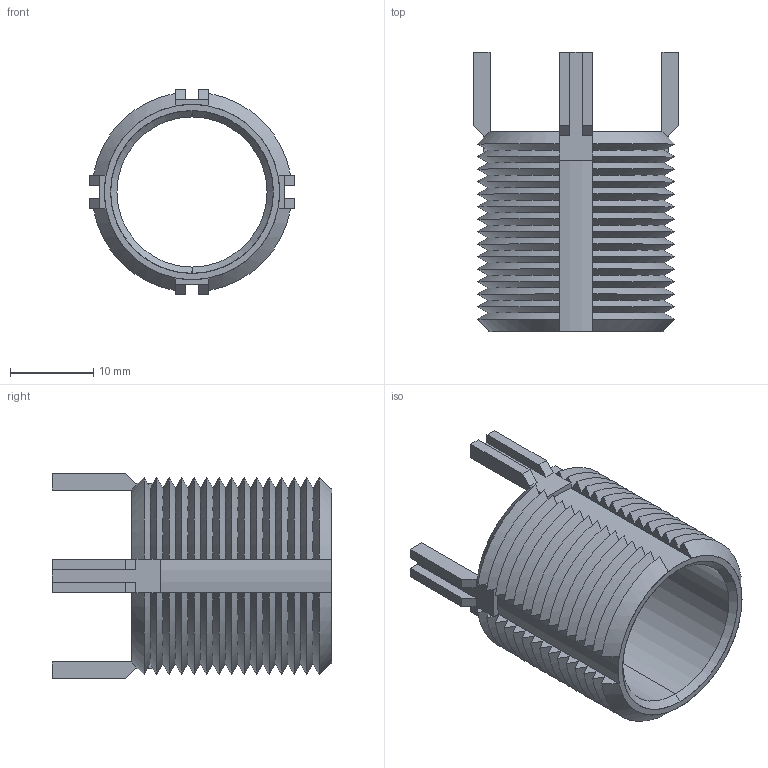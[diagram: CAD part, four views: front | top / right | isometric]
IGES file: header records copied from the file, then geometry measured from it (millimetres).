
Start section: SolidWorks IGES file using analytic representation for surfaces
Global section: file name: C:\Users\IanO\Desktop\PDF data sheets and models from M drive\Holding folder\TR1515_v2_20230317_IGES\22002.W5720.igs; native system: SolidWorks 2019; preprocessor: SolidWorks 2019; author: IanO; date: 230320.193011; units: millimetre
Bounding box: 24.62 x 33.5 x 24.62 mm (x, y, z)
Surface area: 5163.5 mm2 (no closed solid volume)
Topology: 0 solids, 0 shells, 220 faces, 1312 edges, 1312 vertices
Faces by surface type: revolution 130, bspline 90
